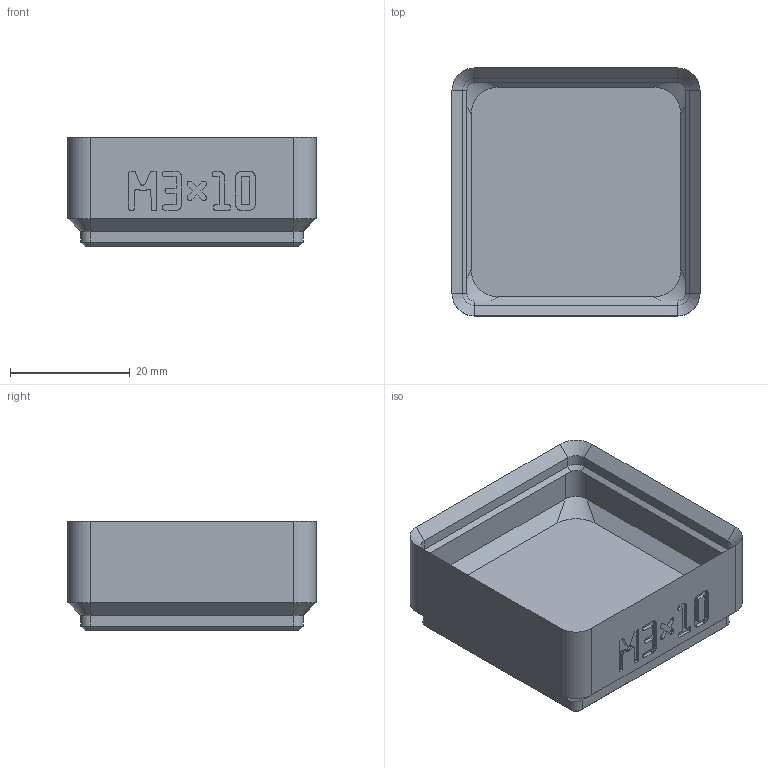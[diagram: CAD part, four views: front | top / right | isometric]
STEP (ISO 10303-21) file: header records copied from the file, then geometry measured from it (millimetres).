
FILE_DESCRIPTION(('Open CASCADE Model'),'2;1');
FILE_NAME('bin_m3x10','2026-11-03T16:47:41',('Author'),('Open CASCADE'), 'Open CASCADE STEP processor 8.0','build123d','Unknown');
FILE_SCHEMA(('AUTOMOTIVE_DESIGN { 1 0 10303 214 1 1 1 1 }'));
Length unit declared in the file: millimetre
Products named in the file (1): bin_m3x10
Bounding box: 41.5 x 41.5 x 18.4 mm (x, y, z)
Volume: 10996.6 mm3; surface area: 8291.3 mm2
Topology: 1 solids, 1 shells, 573 faces, 1612 edges, 1056 vertices
Faces by surface type: plane 525, cylinder 24, cone 16, bspline 8
Full cylindrical faces by diameter (mm): 3.2 x4, 6.5 x4
Entity records: 37996 total; most frequent: CARTESIAN_POINT 7686, DIRECTION 4908, LINE 3628, VECTOR 3628, ORIENTED_EDGE 3224, PCURVE 3224, DEFINITIONAL_REPRESENTATION 3224, EDGE_CURVE 1612
